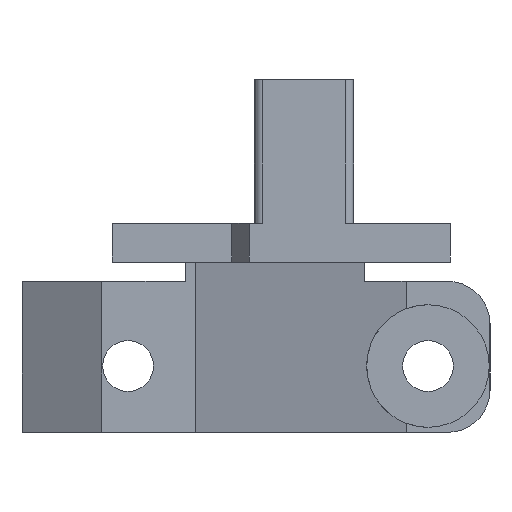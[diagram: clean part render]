
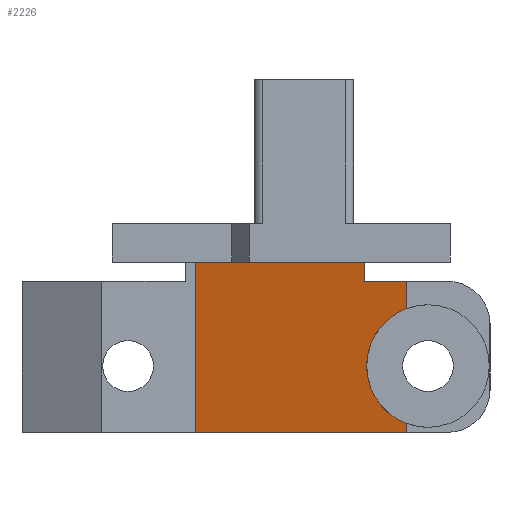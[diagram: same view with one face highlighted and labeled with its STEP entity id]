
A CAD part, left-side view. The second image highlights one B-rep face of the part: STEP entity #2226.
In plain terms, the highlighted planar face has unit normal (-0.962, 0.274, 0).
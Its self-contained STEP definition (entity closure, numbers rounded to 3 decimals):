
#381 = PLANE ( 'NONE',  #442 ) ;
#427 = DIRECTION ( 'NONE',  ( -0.274, -0.962, 0. ) ) ;
#428 = DIRECTION ( 'NONE',  ( -0.962, 0.274, 0. ) ) ;
#434 = CARTESIAN_POINT ( 'NONE',  ( 158.45, 83.838, 2.45 ) ) ;
#436 = FACE_OUTER_BOUND ( 'NONE', #2225, .T. ) ;
#442 = AXIS2_PLACEMENT_3D ( 'NONE', #434, #428, #427 ) ;
#704 = VERTEX_POINT ( 'NONE', #2291 ) ;
#763 = VERTEX_POINT ( 'NONE', #2471 ) ;
#765 = EDGE_CURVE ( 'NONE', #763, #704, #2506, .T. ) ;
#870 = ORIENTED_EDGE ( 'NONE', *, *, #1960, .T. ) ;
#871 = ORIENTED_EDGE ( 'NONE', *, *, #1646, .T. ) ;
#873 = ORIENTED_EDGE ( 'NONE', *, *, #875, .T. ) ;
#875 = EDGE_CURVE ( 'NONE', #1955, #1871, #2883, .T. ) ;
#876 = ORIENTED_EDGE ( 'NONE', *, *, #1754, .T. ) ;
#877 = ORIENTED_EDGE ( 'NONE', *, *, #1819, .T. ) ;
#1636 = VERTEX_POINT ( 'NONE', #3930 ) ;
#1645 = EDGE_CURVE ( 'NONE', #704, #1660, #3920, .T. ) ;
#1646 = EDGE_CURVE ( 'NONE', #1636, #763, #3904, .T. ) ;
#1649 = VERTEX_POINT ( 'NONE', #3903 ) ;
#1659 = EDGE_CURVE ( 'NONE', #1660, #1649, #3949, .T. ) ;
#1660 = VERTEX_POINT ( 'NONE', #3963 ) ;
#1754 = EDGE_CURVE ( 'NONE', #1816, #1636, #4073, .T. ) ;
#1816 = VERTEX_POINT ( 'NONE', #4225 ) ;
#1819 = EDGE_CURVE ( 'NONE', #1871, #1816, #4181, .T. ) ;
#1871 = VERTEX_POINT ( 'NONE', #4271 ) ;
#1912 = ORIENTED_EDGE ( 'NONE', *, *, #1645, .T. ) ;
#1955 = VERTEX_POINT ( 'NONE', #4441 ) ;
#1958 = ORIENTED_EDGE ( 'NONE', *, *, #765, .T. ) ;
#1960 = EDGE_CURVE ( 'NONE', #1649, #1955, #4443, .T. ) ;
#2009 = ORIENTED_EDGE ( 'NONE', *, *, #1659, .T. ) ;
#2225 = EDGE_LOOP ( 'NONE', ( #1958, #1912, #2009, #870, #873, #877, #876, #871 ) ) ;
#2226 = ADVANCED_FACE ( 'NONE', ( #436 ), #381, .T. ) ;
#2291 = CARTESIAN_POINT ( 'NONE',  ( 158.45, 83.838, 17.069 ) ) ;
#2471 = CARTESIAN_POINT ( 'NONE',  ( 158.45, 83.838, 3.531 ) ) ;
#2501 = CARTESIAN_POINT ( 'NONE',  ( 158.45, 83.838, 17.069 ) ) ;
#2502 = CARTESIAN_POINT ( 'NONE',  ( 160.545, 91.2, 14.243 ) ) ;
#2503 = CARTESIAN_POINT ( 'NONE',  ( 160.545, 91.2, 6.357 ) ) ;
#2504 = CARTESIAN_POINT ( 'NONE',  ( 158.45, 83.838, 3.531 ) ) ;
#2506 =( BOUNDED_CURVE ( )  B_SPLINE_CURVE ( 3, ( #2504, #2503, #2502, #2501 ),
 .UNSPECIFIED., .F., .T. ) 
 B_SPLINE_CURVE_WITH_KNOTS ( ( 4, 4 ),
 ( 5.079, 7.487 ),
 .UNSPECIFIED. ) 
 CURVE ( )  GEOMETRIC_REPRESENTATION_ITEM ( )  RATIONAL_B_SPLINE_CURVE ( ( 1., 0.572, 0.572, 1. ) ) 
 REPRESENTATION_ITEM ( '' )  );
#2871 = DIRECTION ( 'NONE',  ( 0.274, 0.962, 0. ) ) ;
#2883 = LINE ( 'NONE', #2913, #2896 ) ;
#2896 = VECTOR ( 'NONE', #2871, 1000. ) ;
#2913 = CARTESIAN_POINT ( 'NONE',  ( 159.842, 88.73, 22.6 ) ) ;
#3878 = VECTOR ( 'NONE', #3905, 1000. ) ;
#3900 = DIRECTION ( 'NONE',  ( 0., 0., 1. ) ) ;
#3901 = VECTOR ( 'NONE', #3900, 1000. ) ;
#3902 = CARTESIAN_POINT ( 'NONE',  ( 158.45, 83.838, 2.45 ) ) ;
#3903 = CARTESIAN_POINT ( 'NONE',  ( 159.842, 88.73, 20.315 ) ) ;
#3904 = LINE ( 'NONE', #3902, #3901 ) ;
#3905 = DIRECTION ( 'NONE',  ( 0., 0., 1. ) ) ;
#3919 = CARTESIAN_POINT ( 'NONE',  ( 158.45, 83.838, 2.45 ) ) ;
#3920 = LINE ( 'NONE', #3919, #3878 ) ;
#3930 = CARTESIAN_POINT ( 'NONE',  ( 158.45, 83.838, 2.45 ) ) ;
#3945 = DIRECTION ( 'NONE',  ( 0.274, 0.962, 0. ) ) ;
#3946 = VECTOR ( 'NONE', #3945, 1000. ) ;
#3948 = CARTESIAN_POINT ( 'NONE',  ( 158.45, 83.838, 20.315 ) ) ;
#3949 = LINE ( 'NONE', #3948, #3946 ) ;
#3963 = CARTESIAN_POINT ( 'NONE',  ( 158.45, 83.838, 20.315 ) ) ;
#4073 = LINE ( 'NONE', #4108, #4105 ) ;
#4103 = DIRECTION ( 'NONE',  ( -0.274, -0.962, 0. ) ) ;
#4105 = VECTOR ( 'NONE', #4103, 1000. ) ;
#4108 = CARTESIAN_POINT ( 'NONE',  ( 158.45, 83.838, 2.45 ) ) ;
#4180 = CARTESIAN_POINT ( 'NONE',  ( 165.53, 108.716, 2.45 ) ) ;
#4181 = LINE ( 'NONE', #4180, #4211 ) ;
#4210 = DIRECTION ( 'NONE',  ( 0., 0., -1. ) ) ;
#4211 = VECTOR ( 'NONE', #4210, 1000. ) ;
#4225 = CARTESIAN_POINT ( 'NONE',  ( 165.53, 108.716, 2.45 ) ) ;
#4271 = CARTESIAN_POINT ( 'NONE',  ( 165.53, 108.716, 22.6 ) ) ;
#4431 = DIRECTION ( 'NONE',  ( 0., 0., 1. ) ) ;
#4432 = VECTOR ( 'NONE', #4431, 1000. ) ;
#4441 = CARTESIAN_POINT ( 'NONE',  ( 159.842, 88.73, 22.6 ) ) ;
#4442 = CARTESIAN_POINT ( 'NONE',  ( 159.842, 88.73, 2.45 ) ) ;
#4443 = LINE ( 'NONE', #4442, #4432 ) ;
